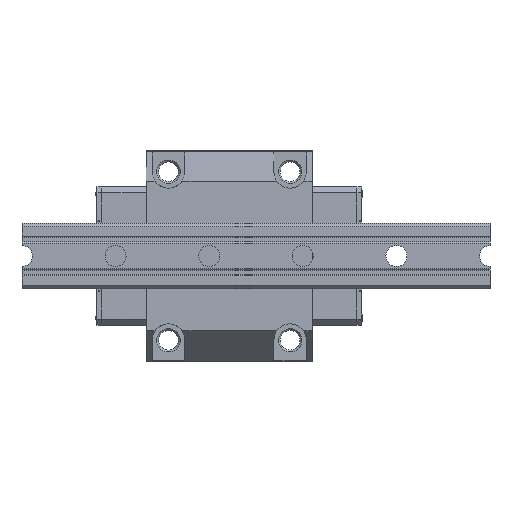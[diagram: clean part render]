
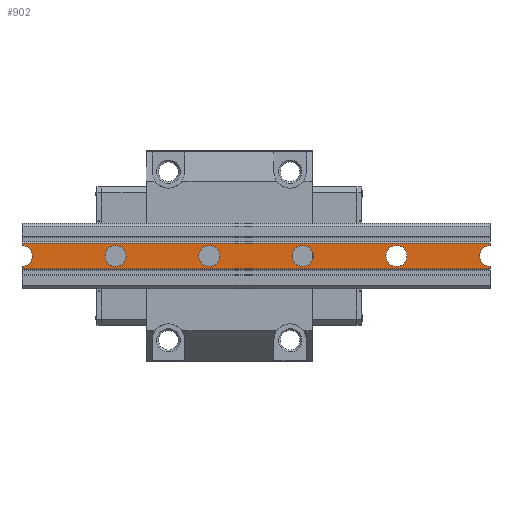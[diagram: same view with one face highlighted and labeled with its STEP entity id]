
A CAD part, front view. The second image highlights one B-rep face of the part: STEP entity #902.
In plain terms, the highlighted planar face has unit normal (0, -1, 0).
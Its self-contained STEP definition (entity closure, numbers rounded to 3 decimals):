
#902 = ADVANCED_FACE( '', ( #2101, #2102, #2103, #2104, #2105 ), #2106, .F. );
#2101 = FACE_BOUND( '', #3738, .T. );
#2102 = FACE_BOUND( '', #3739, .T. );
#2103 = FACE_BOUND( '', #3740, .T. );
#2104 = FACE_BOUND( '', #3741, .T. );
#2105 = FACE_OUTER_BOUND( '', #3742, .T. );
#2106 = PLANE( '', #3743 );
#3738 = EDGE_LOOP( '', ( #5935 ) );
#3739 = EDGE_LOOP( '', ( #5936 ) );
#3740 = EDGE_LOOP( '', ( #5937 ) );
#3741 = EDGE_LOOP( '', ( #5938 ) );
#3742 = EDGE_LOOP( '', ( #5939, #5940, #5941, #5942, #5943, #5944, #5945, #5946 ) );
#3743 = AXIS2_PLACEMENT_3D( '', #5947, #5948, #5949 );
#5935 = ORIENTED_EDGE( '', *, *, #10257, .F. );
#5936 = ORIENTED_EDGE( '', *, *, #10258, .F. );
#5937 = ORIENTED_EDGE( '', *, *, #10259, .F. );
#5938 = ORIENTED_EDGE( '', *, *, #10260, .F. );
#5939 = ORIENTED_EDGE( '', *, *, #10261, .F. );
#5940 = ORIENTED_EDGE( '', *, *, #10262, .F. );
#5941 = ORIENTED_EDGE( '', *, *, #10263, .T. );
#5942 = ORIENTED_EDGE( '', *, *, #10264, .T. );
#5943 = ORIENTED_EDGE( '', *, *, #10265, .F. );
#5944 = ORIENTED_EDGE( '', *, *, #10266, .T. );
#5945 = ORIENTED_EDGE( '', *, *, #10267, .F. );
#5946 = ORIENTED_EDGE( '', *, *, #9756, .F. );
#5947 = CARTESIAN_POINT( '', ( 100., 0., 5.5 ) );
#5948 = DIRECTION( '', ( 0., 1., 0. ) );
#5949 = DIRECTION( '', ( 0., 0., 1. ) );
#9756 = EDGE_CURVE( '', #11587, #11589, #11590, .T. );
#10257 = EDGE_CURVE( '', #12466, #12466, #12467, .T. );
#10258 = EDGE_CURVE( '', #12468, #12468, #12469, .T. );
#10259 = EDGE_CURVE( '', #12470, #12470, #12471, .T. );
#10260 = EDGE_CURVE( '', #12472, #12472, #12473, .T. );
#10261 = EDGE_CURVE( '', #12474, #11587, #12475, .T. );
#10262 = EDGE_CURVE( '', #12476, #12474, #12477, .T. );
#10263 = EDGE_CURVE( '', #12476, #12478, #12479, .T. );
#10264 = EDGE_CURVE( '', #12478, #12480, #12481, .T. );
#10265 = EDGE_CURVE( '', #12482, #12480, #12483, .T. );
#10266 = EDGE_CURVE( '', #12482, #12484, #12485, .T. );
#10267 = EDGE_CURVE( '', #11589, #12484, #12486, .T. );
#11587 = VERTEX_POINT( '', #14308 );
#11589 = VERTEX_POINT( '', #14311 );
#11590 = LINE( '', #14312, #14313 );
#12466 = VERTEX_POINT( '', #15565 );
#12467 = CIRCLE( '', #15566, 4.5 );
#12468 = VERTEX_POINT( '', #15567 );
#12469 = CIRCLE( '', #15568, 4.5 );
#12470 = VERTEX_POINT( '', #15569 );
#12471 = CIRCLE( '', #15570, 4.5 );
#12472 = VERTEX_POINT( '', #15571 );
#12473 = CIRCLE( '', #15572, 4.5 );
#12474 = VERTEX_POINT( '', #15573 );
#12475 = CIRCLE( '', #15574, 4.5 );
#12476 = VERTEX_POINT( '', #15575 );
#12477 = LINE( '', #15576, #15577 );
#12478 = VERTEX_POINT( '', #15578 );
#12479 = LINE( '', #15579, #15580 );
#12480 = VERTEX_POINT( '', #15581 );
#12481 = LINE( '', #15582, #15583 );
#12482 = VERTEX_POINT( '', #15584 );
#12483 = CIRCLE( '', #15585, 4.5 );
#12484 = VERTEX_POINT( '', #15586 );
#12485 = LINE( '', #15587, #15588 );
#12486 = LINE( '', #15589, #15590 );
#14308 = CARTESIAN_POINT( '', ( 100., 0., -4.5 ) );
#14311 = CARTESIAN_POINT( '', ( 100., 0., -5.5 ) );
#14312 = CARTESIAN_POINT( '', ( 100., 0., 5.5 ) );
#14313 = VECTOR( '', #18222, 1000. );
#15565 = CARTESIAN_POINT( '', ( -60., 0., -4.5 ) );
#15566 = AXIS2_PLACEMENT_3D( '', #18761, #18762, #18763 );
#15567 = CARTESIAN_POINT( '', ( -20., 0., -4.5 ) );
#15568 = AXIS2_PLACEMENT_3D( '', #18764, #18765, #18766 );
#15569 = CARTESIAN_POINT( '', ( 20., 0., -4.5 ) );
#15570 = AXIS2_PLACEMENT_3D( '', #18767, #18768, #18769 );
#15571 = CARTESIAN_POINT( '', ( 60., 0., -4.5 ) );
#15572 = AXIS2_PLACEMENT_3D( '', #18770, #18771, #18772 );
#15573 = CARTESIAN_POINT( '', ( 100., 0., 4.5 ) );
#15574 = AXIS2_PLACEMENT_3D( '', #18773, #18774, #18775 );
#15575 = CARTESIAN_POINT( '', ( 100., 0., 5.5 ) );
#15576 = CARTESIAN_POINT( '', ( 100., 0., 5.5 ) );
#15577 = VECTOR( '', #18776, 1000. );
#15578 = CARTESIAN_POINT( '', ( -100., 0., 5.5 ) );
#15579 = CARTESIAN_POINT( '', ( 100., 0., 5.5 ) );
#15580 = VECTOR( '', #18777, 1000. );
#15581 = CARTESIAN_POINT( '', ( -100., 0., 4.5 ) );
#15582 = CARTESIAN_POINT( '', ( -100., 0., 5.5 ) );
#15583 = VECTOR( '', #18778, 1000. );
#15584 = CARTESIAN_POINT( '', ( -100., 0., -4.5 ) );
#15585 = AXIS2_PLACEMENT_3D( '', #18779, #18780, #18781 );
#15586 = CARTESIAN_POINT( '', ( -100., 0., -5.5 ) );
#15587 = CARTESIAN_POINT( '', ( -100., 0., 5.5 ) );
#15588 = VECTOR( '', #18782, 1000. );
#15589 = CARTESIAN_POINT( '', ( 100., 0., -5.5 ) );
#15590 = VECTOR( '', #18783, 1000. );
#18222 = DIRECTION( '', ( 0., 0., -1. ) );
#18761 = CARTESIAN_POINT( '', ( -60., 0., 0. ) );
#18762 = DIRECTION( '', ( 0., -1., 0. ) );
#18763 = DIRECTION( '', ( 0., 0., -1. ) );
#18764 = CARTESIAN_POINT( '', ( -20., 0., 0. ) );
#18765 = DIRECTION( '', ( 0., -1., 0. ) );
#18766 = DIRECTION( '', ( 0., 0., -1. ) );
#18767 = CARTESIAN_POINT( '', ( 20., 0., 0. ) );
#18768 = DIRECTION( '', ( 0., -1., 0. ) );
#18769 = DIRECTION( '', ( 0., 0., -1. ) );
#18770 = CARTESIAN_POINT( '', ( 60., 0., 0. ) );
#18771 = DIRECTION( '', ( 0., -1., 0. ) );
#18772 = DIRECTION( '', ( 0., 0., -1. ) );
#18773 = CARTESIAN_POINT( '', ( 100., 0., 0. ) );
#18774 = DIRECTION( '', ( 0., -1., 0. ) );
#18775 = DIRECTION( '', ( 0., 0., -1. ) );
#18776 = DIRECTION( '', ( 0., 0., -1. ) );
#18777 = DIRECTION( '', ( -1., 0., 0. ) );
#18778 = DIRECTION( '', ( 0., 0., -1. ) );
#18779 = CARTESIAN_POINT( '', ( -100., 0., 0. ) );
#18780 = DIRECTION( '', ( 0., -1., 0. ) );
#18781 = DIRECTION( '', ( 0., 0., -1. ) );
#18782 = DIRECTION( '', ( 0., 0., -1. ) );
#18783 = DIRECTION( '', ( -1., 0., 0. ) );
